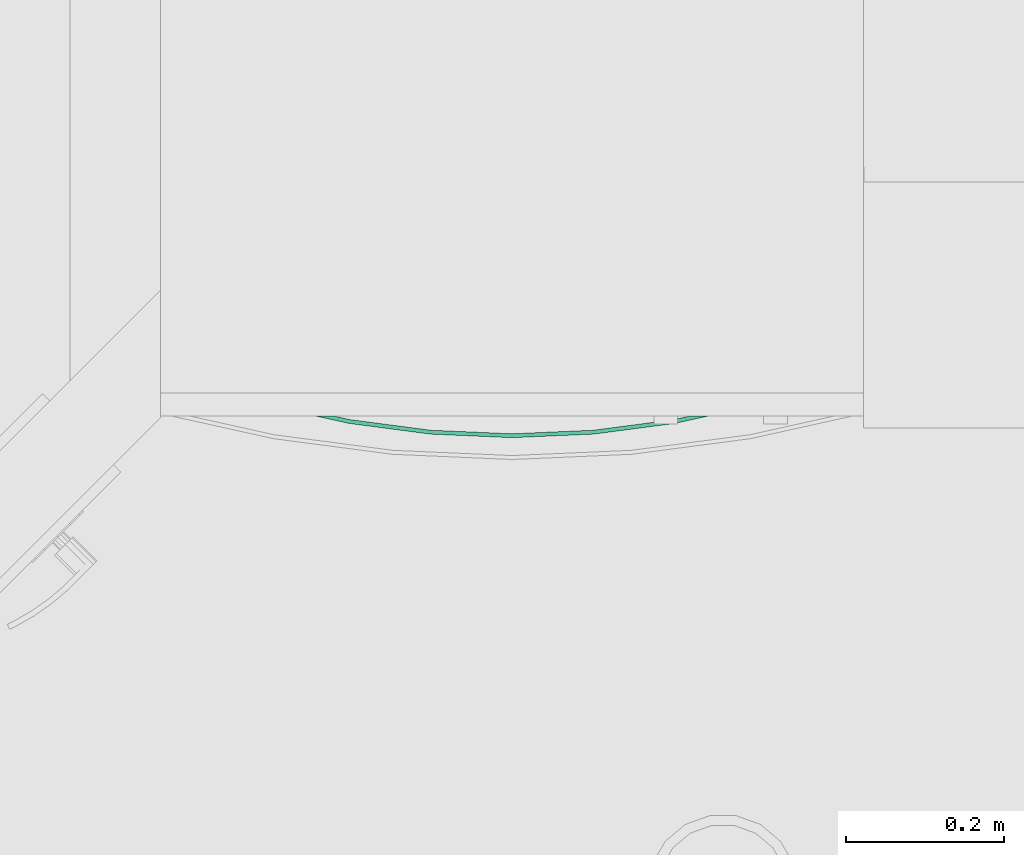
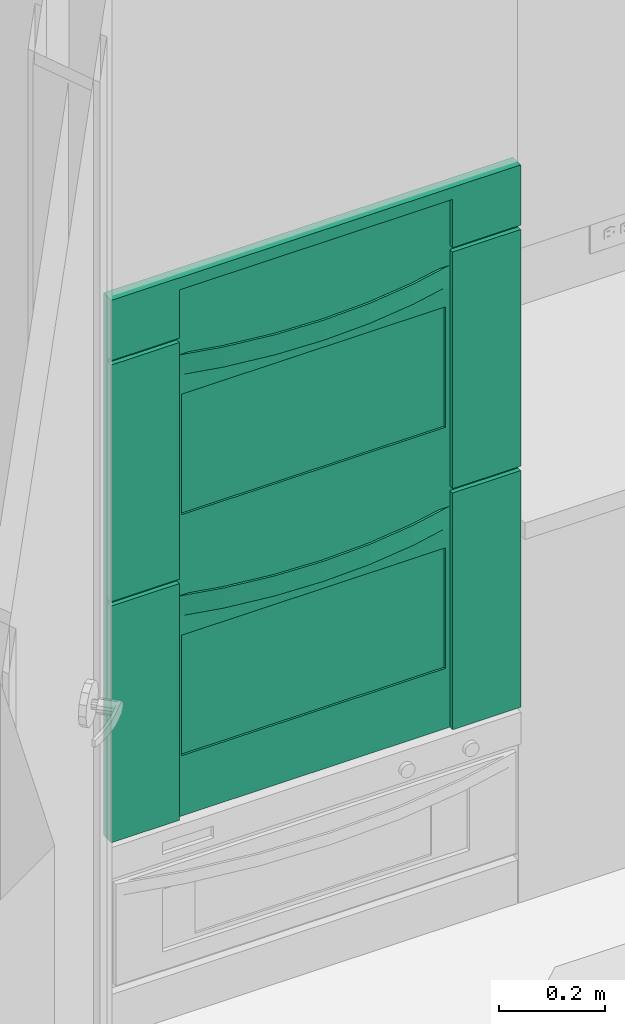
# One storey, part 37 of 103: 1 flow terminal.
"""IFC2X3 building model written with IfcOpenShell, lengths in inches."""

from ifc_helpers import new_model, entity, si_unit, converted_unit, derived_unit, money_unit, direction, frame, origin_with_axes, place, context, subcontext, project, spatial, faceted_brep, type_object, element, save


model = new_model("IFC2X3")

# Units and contexts
model_context = context("Model", 3, precision=0.00039370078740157, world=origin_with_axes(), true_north=direction((0.0, 1.0)))
plan_context = context("Plan", 3, precision=0.00039370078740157, world=origin_with_axes(), true_north=direction((0.0, 1.0)))
body_context = subcontext(model_context, "Body", "Model", "MODEL_VIEW")
ifc_project = project(units=[converted_unit("LENGTHUNIT", "INCH", entity("IfcPositiveLengthMeasure", 0.0254), si_unit("LENGTHUNIT", "METRE"), dimensions=[1, 0, 0, 0, 0, 0, 0]), converted_unit("AREAUNIT", "SQUARE_FOOT", entity("IfcPositiveLengthMeasure", 0.09290304), si_unit("AREAUNIT", "SQUARE_METRE"), dimensions=[2, 0, 0, 0, 0, 0, 0]), si_unit("PLANEANGLEUNIT", "RADIAN"), si_unit("SOLIDANGLEUNIT", "STERADIAN"), money_unit("USD"), converted_unit("TIMEUNIT", "Year", entity("IfcTimeMeasure", 31557600.0), si_unit("TIMEUNIT", "SECOND"), dimensions=[0, 0, 1, 0, 0, 0, 0]), si_unit("MASSUNIT", "GRAM", prefix="KILO"), si_unit("THERMODYNAMICTEMPERATUREUNIT", "DEGREE_CELSIUS"), si_unit("LUMINOUSINTENSITYUNIT", "LUMEN"), si_unit("ENERGYUNIT", "JOULE", prefix="MEGA"), derived_unit("SPECIFICHEATCAPACITYUNIT", [(si_unit("ENERGYUNIT", "JOULE"), 1), (si_unit("MASSUNIT", "GRAM", prefix="KILO"), -1), (si_unit("THERMODYNAMICTEMPERATUREUNIT", "KELVIN"), -1)])], contexts=[model_context, plan_context])

# Site, building, storey
site_placement = place(None, origin_with_axes())
site = spatial("IfcSite", under=ifc_project, at=site_placement, Name="Site", CompositionType="ELEMENT")
building_placement = place(site_placement, origin_with_axes())
building = spatial("IfcBuilding", under=site, at=building_placement, Name="Building", CompositionType="ELEMENT")
storey_placement = place(building_placement, frame((0.0, 0.0, 127.9999999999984), z_axis=(0.0, 0.0, 1.0), x_axis=(1.0, 0.0, 0.0)))
storey = spatial("IfcBuildingStorey", under=building, at=storey_placement, Name="Second Floor", CompositionType="ELEMENT", Elevation=128.0)

# Flow terminal
electric_appliance_type = type_object("IfcElectricApplianceType", Name="Oven Built-in", PredefinedType="NOTDEFINED")
flow_terminal_placement = place(storey_placement, frame((28.99952023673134, 371.4926862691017, 17.99999999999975), z_axis=(0.0, 0.0, 1.0), x_axis=(0.9999999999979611, 2.01938114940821e-06, 0.0)))
element("IfcFlowTerminal", 1, at=flow_terminal_placement, inside=storey, type_object=electric_appliance_type, Name="OBJ-19", context=body_context, shape_type="Brep", body=[
    faceted_brep([(0.0, 0.7499999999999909, 0.0), (34.99999999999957, 0.7499999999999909, 0.0), (34.99999999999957, 0.0, 0.0), (0.0, 0.0, 0.0), (0.0, 0.7499999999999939, 48.9999999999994), (34.99999999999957, 0.7499999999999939, 48.9999999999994), (6.227034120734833, 0.7499999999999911, 5.444444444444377), (28.77296587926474, 0.7499999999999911, 5.444444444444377), (28.77296587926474, 0.7499999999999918, 16.33333333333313), (6.227034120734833, 0.7499999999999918, 16.33333333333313), (6.227034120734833, 0.7499999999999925, 27.22222222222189), (28.77296587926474, 0.7499999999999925, 27.22222222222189), (28.77296587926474, 0.7499999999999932, 38.11111111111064), (6.227034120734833, 0.7499999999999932, 38.11111111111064), (34.99999999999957, 0.0, 48.9999999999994), (0.0, 0.0, 48.9999999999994), (6.227034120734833, 0.0, 5.444444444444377), (6.227034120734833, 0.0, 16.33333333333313), (28.77296587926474, 0.0, 16.33333333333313), (28.77296587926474, 0.0, 5.444444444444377), (6.227034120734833, 0.0, 27.22222222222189), (6.227034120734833, 0.0, 38.11111111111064), (28.77296587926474, 0.0, 38.11111111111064), (28.77296587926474, 0.0, 27.22222222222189)], [[[0, 1, 2, 3]], [[0, 4, 5, 1], [6, 7, 8, 9], [10, 11, 12, 13]], [[1, 5, 14, 2]], [[3, 2, 14, 15], [16, 17, 18, 19], [20, 21, 22, 23]], [[4, 0, 3, 15]], [[5, 4, 15, 14]], [[7, 6, 16, 19]], [[8, 7, 19, 18]], [[9, 8, 18, 17]], [[6, 9, 17, 16]], [[11, 10, 20, 23]], [[12, 11, 23, 22]], [[13, 12, 22, 21]], [[10, 13, 21, 20]]]),
    faceted_brep([(6.227034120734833, 0.5624999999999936, 5.444444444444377), (28.77296587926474, 0.5624999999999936, 5.444444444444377), (28.77296587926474, 0.1874999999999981, 5.444444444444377), (6.227034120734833, 0.1874999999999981, 5.444444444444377), (6.227034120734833, 0.5624999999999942, 16.33333333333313), (28.77296587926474, 0.5624999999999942, 16.33333333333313), (28.77296587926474, 0.1874999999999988, 16.33333333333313), (6.227034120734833, 0.1874999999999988, 16.33333333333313)], [[[0, 1, 2, 3]], [[0, 4, 5, 1]], [[1, 5, 6, 2]], [[3, 2, 6, 7]], [[4, 0, 3, 7]], [[5, 4, 7, 6]]]),
    faceted_brep([(6.227034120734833, 0.5624999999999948, 27.22222222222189), (28.77296587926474, 0.5624999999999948, 27.22222222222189), (28.77296587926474, 0.1874999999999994, 27.22222222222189), (6.227034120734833, 0.1874999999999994, 27.22222222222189), (6.227034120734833, 0.5624999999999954, 38.11111111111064), (28.77296587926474, 0.5624999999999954, 38.11111111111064), (28.77296587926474, 0.1875000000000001, 38.11111111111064), (6.227034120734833, 0.1875000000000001, 38.11111111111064)], [[[0, 1, 2, 3]], [[0, 4, 5, 1]], [[1, 5, 6, 2]], [[3, 2, 6, 7]], [[4, 0, 3, 7]], [[5, 4, 7, 6]]]),
    faceted_brep([(0.0, -0.39370078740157, 0.0), (5.833333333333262, -0.39370078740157, 0.0), (5.833333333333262, -0.39370078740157, 21.38407699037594), (0.0, -0.39370078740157, 21.38407699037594), (0.0, 0.0, 0.0), (5.833333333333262, 0.0, 0.0), (5.833333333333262, 0.0, 21.38407699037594), (0.0, 0.0, 21.38407699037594)], [[[0, 1, 2, 3]], [[0, 4, 5, 1]], [[1, 5, 6, 2]], [[3, 2, 6, 7]], [[4, 0, 3, 7]], [[5, 4, 7, 6]]]),
    faceted_brep([(0.0, -0.39370078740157, 21.77777777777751), (5.833333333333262, -0.39370078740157, 21.77777777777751), (5.833333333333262, -0.39370078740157, 43.16185476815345), (0.0, -0.39370078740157, 43.16185476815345), (0.0, 0.0, 21.77777777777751), (5.833333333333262, 0.0, 21.77777777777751), (5.833333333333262, 0.0, 43.16185476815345), (0.0, 0.0, 43.16185476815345)], [[[0, 1, 2, 3]], [[0, 4, 5, 1]], [[1, 5, 6, 2]], [[3, 2, 6, 7]], [[4, 0, 3, 7]], [[5, 4, 7, 6]]]),
    faceted_brep([(29.16666666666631, -0.39370078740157, 0.0), (34.99999999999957, -0.39370078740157, 0.0), (34.99999999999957, -0.39370078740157, 21.38407699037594), (29.16666666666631, -0.39370078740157, 21.38407699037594), (29.16666666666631, 0.0, 0.0), (34.99999999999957, 0.0, 0.0), (34.99999999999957, 0.0, 21.38407699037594), (29.16666666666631, 0.0, 21.38407699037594)], [[[0, 1, 2, 3]], [[0, 4, 5, 1]], [[1, 5, 6, 2]], [[3, 2, 6, 7]], [[4, 0, 3, 7]], [[5, 4, 7, 6]]]),
    faceted_brep([(29.16666666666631, -0.39370078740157, 21.77777777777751), (34.99999999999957, -0.39370078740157, 21.77777777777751), (34.99999999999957, -0.39370078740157, 43.16185476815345), (29.16666666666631, -0.39370078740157, 43.16185476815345), (29.16666666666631, 0.0, 21.77777777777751), (34.99999999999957, 0.0, 21.77777777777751), (34.99999999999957, 0.0, 43.16185476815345), (29.16666666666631, 0.0, 43.16185476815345)], [[[0, 1, 2, 3]], [[0, 4, 5, 1]], [[1, 5, 6, 2]], [[3, 2, 6, 7]], [[4, 0, 3, 7]], [[5, 4, 7, 6]]]),
    faceted_brep([(0.0, 0.0, 43.55555555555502), (5.833333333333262, 0.0, 43.55555555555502), (5.833333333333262, -0.39370078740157, 43.55555555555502), (0.0, -0.39370078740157, 43.55555555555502), (0.0, 0.0, 48.9999999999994), (34.99999999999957, 0.0, 48.9999999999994), (34.99999999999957, 0.0, 43.55555555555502), (29.16666666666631, 0.0, 43.55555555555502), (29.16666666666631, 0.0, 47.91111111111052), (5.833333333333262, 0.0, 47.91111111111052), (5.833333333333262, -0.3937007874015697, 47.91111111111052), (29.16666666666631, -0.3937007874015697, 47.91111111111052), (29.16666666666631, -0.39370078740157, 43.55555555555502), (34.99999999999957, -0.39370078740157, 43.55555555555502), (34.99999999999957, -0.3937007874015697, 48.9999999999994), (0.0, -0.3937007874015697, 48.9999999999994)], [[[0, 1, 2, 3]], [[0, 4, 5, 6, 7, 8, 9, 1]], [[1, 9, 10, 2]], [[3, 2, 10, 11, 12, 13, 14, 15]], [[4, 0, 3, 15]], [[5, 4, 15, 14]], [[6, 5, 14, 13]], [[7, 6, 13, 12]], [[8, 7, 12, 11]], [[9, 8, 11, 10]]]),
    faceted_brep([(5.910139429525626, 0.0, 18.14814814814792), (9.3964183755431, -0.7728894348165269, 18.14814814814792), (9.3964183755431, -0.7728894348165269, 19.96296296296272), (5.910139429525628, 0.0, 19.96296296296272), (29.08986057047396, 0.0, 18.14814814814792), (25.60358162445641, -0.7728894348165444, 18.14814814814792), (21.56726799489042, -1.304280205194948, 18.14814814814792), (17.49999999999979, -1.48186096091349, 18.14814814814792), (13.43273200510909, -1.30428020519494, 18.14814814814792), (6.818767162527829, 0.0, 18.14814814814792), (9.430601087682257, -0.5790296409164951, 18.14814814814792), (13.44988864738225, -1.108178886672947, 18.14814814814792), (17.49999999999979, -1.285010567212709, 18.14814814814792), (21.55011135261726, -1.108178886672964, 18.14814814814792), (25.56939891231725, -0.5790296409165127, 18.14814814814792), (28.18123283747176, 0.0, 18.14814814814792), (13.43273200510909, -1.30428020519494, 19.96296296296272), (17.49999999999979, -1.48186096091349, 19.96296296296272), (21.56726799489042, -1.304280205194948, 19.96296296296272), (25.60358162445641, -0.7728894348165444, 19.96296296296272), (29.08986057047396, 0.0, 19.96296296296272), (28.18123283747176, 0.0, 19.96296296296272), (25.56939891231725, -0.5790296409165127, 19.96296296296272), (21.55011135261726, -1.108178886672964, 19.96296296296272), (17.49999999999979, -1.285010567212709, 19.96296296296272), (13.44988864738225, -1.108178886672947, 19.96296296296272), (9.430601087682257, -0.5790296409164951, 19.96296296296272), (6.81876716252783, 0.0, 19.96296296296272)], [[[0, 1, 2, 3]], [[4, 5, 6, 7, 8, 1, 0, 9, 10, 11, 12, 13, 14, 15]], [[1, 8, 16, 2]], [[3, 2, 16, 17, 18, 19, 20, 21, 22, 23, 24, 25, 26, 27]], [[0, 3, 27, 9]], [[5, 4, 20, 19]], [[6, 5, 19, 18]], [[7, 6, 18, 17]], [[8, 7, 17, 16]], [[10, 9, 27, 26]], [[11, 10, 26, 25]], [[12, 11, 25, 24]], [[13, 12, 24, 23]], [[14, 13, 23, 22]], [[15, 14, 22, 21]], [[4, 15, 21, 20]]]),
    faceted_brep([(5.910139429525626, 0.0, 39.92592592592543), (9.3964183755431, -0.7728894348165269, 39.92592592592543), (9.3964183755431, -0.7728894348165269, 41.74074074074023), (5.910139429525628, 0.0, 41.74074074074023), (29.08986057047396, 0.0, 39.92592592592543), (25.60358162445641, -0.7728894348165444, 39.92592592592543), (21.56726799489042, -1.304280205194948, 39.92592592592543), (17.49999999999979, -1.48186096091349, 39.92592592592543), (13.43273200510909, -1.30428020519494, 39.92592592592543), (6.818767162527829, 0.0, 39.92592592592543), (9.430601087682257, -0.5790296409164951, 39.92592592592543), (13.44988864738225, -1.108178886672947, 39.92592592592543), (17.49999999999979, -1.285010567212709, 39.92592592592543), (21.55011135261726, -1.108178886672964, 39.92592592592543), (25.56939891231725, -0.5790296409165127, 39.92592592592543), (28.18123283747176, 0.0, 39.92592592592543), (13.43273200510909, -1.30428020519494, 41.74074074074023), (17.49999999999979, -1.48186096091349, 41.74074074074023), (21.56726799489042, -1.304280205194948, 41.74074074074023), (25.60358162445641, -0.7728894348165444, 41.74074074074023), (29.08986057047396, 0.0, 41.74074074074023), (28.18123283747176, 0.0, 41.74074074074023), (25.56939891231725, -0.5790296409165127, 41.74074074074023), (21.55011135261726, -1.108178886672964, 41.74074074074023), (17.49999999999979, -1.285010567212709, 41.74074074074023), (13.44988864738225, -1.108178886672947, 41.74074074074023), (9.430601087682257, -0.5790296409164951, 41.74074074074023), (6.81876716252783, 0.0, 41.74074074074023)], [[[0, 1, 2, 3]], [[4, 5, 6, 7, 8, 1, 0, 9, 10, 11, 12, 13, 14, 15]], [[1, 8, 16, 2]], [[3, 2, 16, 17, 18, 19, 20, 21, 22, 23, 24, 25, 26, 27]], [[0, 3, 27, 9]], [[5, 4, 20, 19]], [[6, 5, 19, 18]], [[7, 6, 18, 17]], [[8, 7, 17, 16]], [[10, 9, 27, 26]], [[11, 10, 26, 25]], [[12, 11, 25, 24]], [[13, 12, 24, 23]], [[14, 13, 23, 22]], [[15, 14, 22, 21]], [[4, 15, 21, 20]]]),
])

save(model, "model.ifc")
